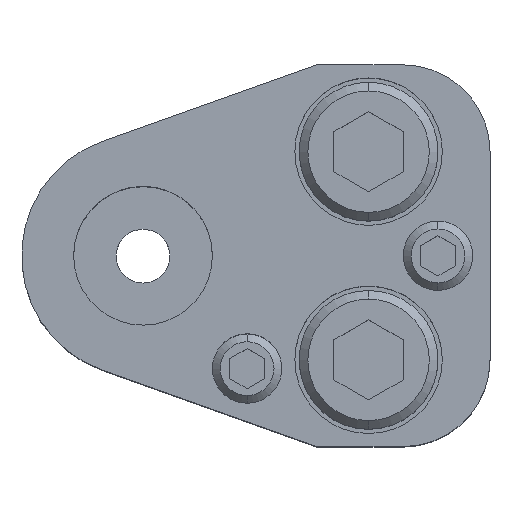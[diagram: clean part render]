
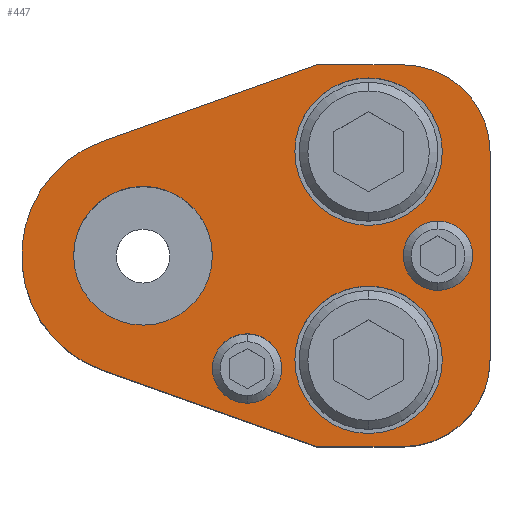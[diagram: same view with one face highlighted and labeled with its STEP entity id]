
A CAD part, top view. The second image highlights one B-rep face of the part: STEP entity #447.
In plain terms, the highlighted planar face has unit normal (0, 0, 1).
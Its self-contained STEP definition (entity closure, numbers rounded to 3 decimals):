
#206=FACE_BOUND('',#807,.T.);
#207=FACE_BOUND('',#808,.T.);
#208=FACE_BOUND('',#809,.T.);
#209=FACE_BOUND('',#810,.T.);
#210=FACE_BOUND('',#811,.T.);
#211=FACE_BOUND('',#812,.T.);
#269=CIRCLE('',#2664,10.);
#271=CIRCLE('',#2668,10.);
#274=CIRCLE('',#2673,14.);
#275=CIRCLE('',#2678,4.);
#277=CIRCLE('',#2681,4.);
#279=CIRCLE('',#2684,4.);
#281=CIRCLE('',#2687,4.);
#291=CIRCLE('',#2702,8.5);
#292=CIRCLE('',#2703,8.5);
#293=CIRCLE('',#2704,8.5);
#294=CIRCLE('',#2705,8.5);
#295=CIRCLE('',#2706,8.);
#296=CIRCLE('',#2707,8.);
#447=ADVANCED_FACE('',(#206,#207,#208,#209,#210,#211),#578,.T.);
#578=PLANE('',#2708);
#807=EDGE_LOOP('',(#1148,#1149,#1150,#1151,#1152,#1153,#1154,#1155));
#808=EDGE_LOOP('',(#1156,#1157));
#809=EDGE_LOOP('',(#1158,#1159));
#810=EDGE_LOOP('',(#1160,#1161));
#811=EDGE_LOOP('',(#1162,#1163));
#812=EDGE_LOOP('',(#1164,#1165));
#1148=ORIENTED_EDGE('',*,*,#1952,.T.);
#1149=ORIENTED_EDGE('',*,*,#1961,.T.);
#1150=ORIENTED_EDGE('',*,*,#1935,.T.);
#1151=ORIENTED_EDGE('',*,*,#1939,.T.);
#1152=ORIENTED_EDGE('',*,*,#1942,.T.);
#1153=ORIENTED_EDGE('',*,*,#1945,.T.);
#1154=ORIENTED_EDGE('',*,*,#1948,.T.);
#1155=ORIENTED_EDGE('',*,*,#1956,.T.);
#1156=ORIENTED_EDGE('',*,*,#1991,.F.);
#1157=ORIENTED_EDGE('',*,*,#1992,.F.);
#1158=ORIENTED_EDGE('',*,*,#1993,.F.);
#1159=ORIENTED_EDGE('',*,*,#1994,.F.);
#1160=ORIENTED_EDGE('',*,*,#1977,.F.);
#1161=ORIENTED_EDGE('',*,*,#1973,.F.);
#1162=ORIENTED_EDGE('',*,*,#1971,.F.);
#1163=ORIENTED_EDGE('',*,*,#1967,.F.);
#1164=ORIENTED_EDGE('',*,*,#1995,.T.);
#1165=ORIENTED_EDGE('',*,*,#1996,.T.);
#1686=VERTEX_POINT('',#3857);
#1687=VERTEX_POINT('',#3859);
#1690=VERTEX_POINT('',#3866);
#1692=VERTEX_POINT('',#3872);
#1694=VERTEX_POINT('',#3878);
#1696=VERTEX_POINT('',#3884);
#1699=VERTEX_POINT('',#3892);
#1700=VERTEX_POINT('',#3894);
#1708=VERTEX_POINT('',#3926);
#1709=VERTEX_POINT('',#3927);
#1712=VERTEX_POINT('',#3938);
#1713=VERTEX_POINT('',#3939);
#1724=VERTEX_POINT('',#3974);
#1725=VERTEX_POINT('',#3975);
#1726=VERTEX_POINT('',#3978);
#1727=VERTEX_POINT('',#3979);
#1728=VERTEX_POINT('',#3982);
#1729=VERTEX_POINT('',#3983);
#1935=EDGE_CURVE('',#1687,#1686,#2269,.T.);
#1939=EDGE_CURVE('',#1686,#1690,#269,.T.);
#1942=EDGE_CURVE('',#1690,#1692,#2274,.T.);
#1945=EDGE_CURVE('',#1692,#1694,#271,.T.);
#1948=EDGE_CURVE('',#1694,#1696,#2278,.T.);
#1952=EDGE_CURVE('',#1700,#1699,#274,.T.);
#1956=EDGE_CURVE('',#1696,#1700,#2284,.T.);
#1961=EDGE_CURVE('',#1699,#1687,#2289,.T.);
#1967=EDGE_CURVE('',#1708,#1709,#275,.T.);
#1971=EDGE_CURVE('',#1709,#1708,#277,.T.);
#1973=EDGE_CURVE('',#1712,#1713,#279,.T.);
#1977=EDGE_CURVE('',#1713,#1712,#281,.T.);
#1991=EDGE_CURVE('',#1724,#1725,#291,.T.);
#1992=EDGE_CURVE('',#1725,#1724,#292,.T.);
#1993=EDGE_CURVE('',#1726,#1727,#293,.T.);
#1994=EDGE_CURVE('',#1727,#1726,#294,.T.);
#1995=EDGE_CURVE('',#1728,#1729,#295,.T.);
#1996=EDGE_CURVE('',#1729,#1728,#296,.T.);
#2269=LINE('',#3858,#2467);
#2274=LINE('',#3873,#2472);
#2278=LINE('',#3885,#2476);
#2284=LINE('',#3901,#2482);
#2289=LINE('',#3909,#2487);
#2467=VECTOR('',#3061,1.);
#2472=VECTOR('',#3074,1.);
#2476=VECTOR('',#3086,1.);
#2482=VECTOR('',#3100,1.);
#2487=VECTOR('',#3107,1.);
#2664=AXIS2_PLACEMENT_3D('',#3867,#3067,#3068);
#2668=AXIS2_PLACEMENT_3D('',#3879,#3079,#3080);
#2673=AXIS2_PLACEMENT_3D('',#3893,#3093,#3094);
#2678=AXIS2_PLACEMENT_3D('',#3925,#3116,#3117);
#2681=AXIS2_PLACEMENT_3D('',#3934,#3124,#3125);
#2684=AXIS2_PLACEMENT_3D('',#3937,#3130,#3131);
#2687=AXIS2_PLACEMENT_3D('',#3946,#3138,#3139);
#2702=AXIS2_PLACEMENT_3D('',#3973,#3172,#3173);
#2703=AXIS2_PLACEMENT_3D('',#3976,#3174,#3175);
#2704=AXIS2_PLACEMENT_3D('',#3977,#3176,#3177);
#2705=AXIS2_PLACEMENT_3D('',#3980,#3178,#3179);
#2706=AXIS2_PLACEMENT_3D('',#3981,#3180,#3181);
#2707=AXIS2_PLACEMENT_3D('',#3984,#3182,#3183);
#2708=AXIS2_PLACEMENT_3D('',#3985,#3184,#3185);
#3061=DIRECTION('',(1.,0.,0.));
#3067=DIRECTION('',(0.,0.,1.));
#3068=DIRECTION('',(-0.707,0.707,0.));
#3074=DIRECTION('',(0.,1.,0.));
#3079=DIRECTION('',(0.,0.,1.));
#3080=DIRECTION('',(-0.707,-0.707,0.));
#3086=DIRECTION('',(-1.,0.,0.));
#3093=DIRECTION('',(0.,0.,1.));
#3094=DIRECTION('',(0.,1.,0.));
#3100=DIRECTION('',(-0.942,-0.336,0.));
#3107=DIRECTION('',(0.942,-0.336,0.));
#3116=DIRECTION('',(0.,0.,1.));
#3117=DIRECTION('',(1.,0.,0.));
#3124=DIRECTION('',(0.,0.,1.));
#3125=DIRECTION('',(-1.,0.,0.));
#3130=DIRECTION('',(0.,0.,1.));
#3131=DIRECTION('',(1.,0.,0.));
#3138=DIRECTION('',(0.,0.,1.));
#3139=DIRECTION('',(-1.,0.,0.));
#3172=DIRECTION('',(0.,0.,1.));
#3173=DIRECTION('',(1.,0.,0.));
#3174=DIRECTION('',(0.,0.,1.));
#3175=DIRECTION('',(-1.,0.,0.));
#3176=DIRECTION('',(0.,0.,1.));
#3177=DIRECTION('',(1.,0.,0.));
#3178=DIRECTION('',(0.,0.,1.));
#3179=DIRECTION('',(-1.,0.,0.));
#3180=DIRECTION('',(0.,0.,-1.));
#3181=DIRECTION('',(-1.,0.,0.));
#3182=DIRECTION('',(0.,0.,-1.));
#3183=DIRECTION('',(1.,0.,0.));
#3184=DIRECTION('',(0.,0.,1.));
#3185=DIRECTION('',(0.942,0.336,0.));
#3857=CARTESIAN_POINT('',(30.,-22.,35.));
#3858=CARTESIAN_POINT('',(20.,-22.,35.));
#3859=CARTESIAN_POINT('',(20.,-22.,35.));
#3866=CARTESIAN_POINT('',(40.,-12.,35.));
#3867=CARTESIAN_POINT('',(30.,-12.,35.));
#3872=CARTESIAN_POINT('',(40.,12.,35.));
#3873=CARTESIAN_POINT('',(40.,-12.,35.));
#3878=CARTESIAN_POINT('',(30.,22.,35.));
#3879=CARTESIAN_POINT('',(30.,12.,35.));
#3884=CARTESIAN_POINT('',(20.,22.,35.));
#3885=CARTESIAN_POINT('',(20.,22.,35.));
#3892=CARTESIAN_POINT('',(-4.704,-13.186,35.));
#3893=CARTESIAN_POINT('',(0.,0.,35.));
#3894=CARTESIAN_POINT('',(-4.704,13.186,35.));
#3901=CARTESIAN_POINT('',(20.,22.,35.));
#3909=CARTESIAN_POINT('',(20.,-22.,35.));
#3925=CARTESIAN_POINT('',(12.,-13.,35.));
#3926=CARTESIAN_POINT('',(12.,-9.,35.));
#3927=CARTESIAN_POINT('',(12.,-17.,35.));
#3934=CARTESIAN_POINT('',(12.,-13.,35.));
#3937=CARTESIAN_POINT('',(34.,0.,35.));
#3938=CARTESIAN_POINT('',(34.,4.,35.));
#3939=CARTESIAN_POINT('',(34.,-4.,35.));
#3946=CARTESIAN_POINT('',(34.,0.,35.));
#3973=CARTESIAN_POINT('',(26.,-12.,35.));
#3974=CARTESIAN_POINT('',(26.,-3.5,35.));
#3975=CARTESIAN_POINT('',(26.,-20.5,35.));
#3976=CARTESIAN_POINT('',(26.,-12.,35.));
#3977=CARTESIAN_POINT('',(26.,12.,35.));
#3978=CARTESIAN_POINT('',(26.,20.5,35.));
#3979=CARTESIAN_POINT('',(26.,3.5,35.));
#3980=CARTESIAN_POINT('',(26.,12.,35.));
#3981=CARTESIAN_POINT('',(0.,0.,35.));
#3982=CARTESIAN_POINT('',(0.,8.,35.));
#3983=CARTESIAN_POINT('',(0.,-8.,35.));
#3984=CARTESIAN_POINT('',(0.,0.,35.));
#3985=CARTESIAN_POINT('',(-4.704,13.186,35.));
